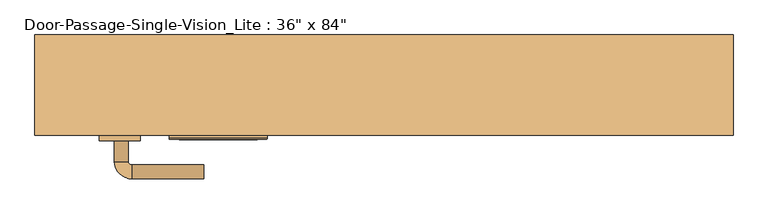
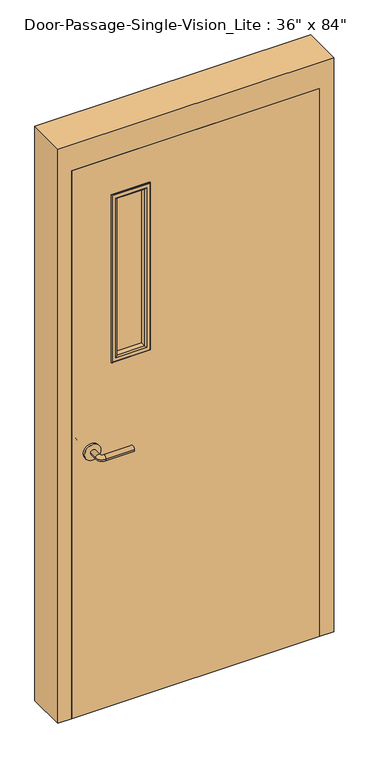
"""IFC4 building model written with IfcOpenShell, lengths in millimetres: door geometry."""

from ifc_helpers import new_model, si_unit, point, frame, frame_2d, origin, place, context, project, spatial, polyline, circle_curve, ellipse_curve, trimmed, segment, composite_curve, outline, extrude, faceted_brep, source, transform, mapped, element, save
from ifc_brep_helpers import plane_surface, cylinder_surface, revolved_surface, advanced_brep


def door_cd60406f(model_context):
    return source(origin(), model_context, "Body", "SolidModel", [
        advanced_brep(
        [(-392.190625, 33.4, 1016.0), (-372.190625, 33.4, 1016.0), (-392.190625, 63.4, 1016.0), (-372.190625, 63.4, 1016.0), (-367.190625, 68.4, 1016.0), (-367.190625, 88.4, 1016.0), (-262.190625, 88.4, 1016.0), (-262.190625, 68.4, 1016.0)],
        [
            (0, 1, circle_curve(frame((-382.190625, 33.4, 1016.0), z_axis=(0.0, -1.0, 0.0), x_axis=(1.0, 0.0, 0.0)), 10.0)),
            (1, 0, circle_curve(frame((-382.190625, 33.4, 1016.0), z_axis=(0.0, -1.0, 0.0), x_axis=(1.0, 0.0, 0.0)), 10.0)),
            (0, 2),
            (2, 3, circle_curve(frame((-382.190625, 63.4, 1016.0), z_axis=(0.0, -1.0, 0.0), x_axis=(1.0, 0.0, 0.0)), 10.0)),
            (3, 1),
            (3, 2, circle_curve(frame((-382.190625, 63.4, 1016.0), z_axis=(0.0, -1.0, 0.0), x_axis=(1.0, 0.0, 0.0)), 10.0)),
            (4, 3, circle_curve(frame((-367.190625, 63.4, 1016.0), z_axis=(0.0, 0.0, 1.0), x_axis=(-1.0, 0.0, 0.0)), 5.0)),
            (2, 5, circle_curve(frame((-367.190625, 63.4, 1016.0), z_axis=(0.0, 0.0, -1.0), x_axis=(-1.0, 0.0, 0.0)), 25.0)),
            (5, 4, circle_curve(frame((-367.190625, 78.4, 1016.0), z_axis=(-1.0, 0.0, 0.0), x_axis=(0.0, -1.0, 0.0)), 10.0)),
            (4, 5, circle_curve(frame((-367.190625, 78.4, 1016.0), z_axis=(-1.0, 0.0, 0.0), x_axis=(0.0, -1.0, 0.0)), 10.0)),
            (6, 7, circle_curve(frame((-262.190625, 78.4, 1016.0), z_axis=(1.0, 0.0, 0.0), x_axis=(0.0, -1.0, 0.0)), 10.0)),
            (7, 6, circle_curve(frame((-262.190625, 78.4, 1016.0), z_axis=(1.0, 0.0, 0.0), x_axis=(0.0, -1.0, 0.0)), 10.0)),
            (5, 6),
            (7, 4),
        ],
        [
            plane_surface(frame((-382.190625, 33.4, 1016.0), z_axis=(0.0, -1.0, 0.0), x_axis=(0.0, 0.0, 1.0))),
            cylinder_surface(frame((-382.190625, 33.4, 1016.0), z_axis=(0.0, -1.0, 0.0), x_axis=(1.0, 0.0, 0.0)), 10.0),
            revolved_surface(trimmed(ellipse_curve(frame((-382.190625, 63.4, 1016.0), z_axis=(0.0, -1.0, 0.0), x_axis=(1.0, 0.0, 0.0)), 10.0, 10.0), [point((-392.190625, 63.4, 1016.0))], [point((-372.190625, 63.4, 1016.0))], True, "CARTESIAN"), (-367.190625, 63.4, 1016.0), (0.0, 0.0, -1.0)),
            revolved_surface(trimmed(ellipse_curve(frame((-382.190625, 63.4, 1016.0), z_axis=(0.0, -1.0, 0.0), x_axis=(1.0, 0.0, 0.0)), 10.0, 10.0), [point((-372.190625, 63.4, 1016.0))], [point((-392.190625, 63.4, 1016.0))], True, "CARTESIAN"), (-367.190625, 63.4, 1016.0), (0.0, 0.0, -1.0)),
            plane_surface(frame((-262.190625, 78.4, 1016.0), z_axis=(1.0, 0.0, 0.0), x_axis=(0.0, 0.0, 1.0))),
            cylinder_surface(frame((-367.190625, 78.4, 1016.0), z_axis=(-1.0, 0.0, 0.0), x_axis=(0.0, -1.0, 0.0)), 10.0),
        ],
        [
            (0, [[1, 2]]),
            (1, [[-1, 3, 4, 5]]),
            (1, [[-2, -5, 6, -3]]),
            (2, [[7, -4, 8, 9]]),
            (3, [[-8, -6, -7, 10]]),
            (4, [[11, 12]]),
            (5, [[-9, 13, -12, 14]]),
            (5, [[-10, -14, -11, -13]]),
        ],
    ),
        extrude(outline(composite_curve([segment(trimmed(circle_curve(frame_2d((1016.0, -384.690625)), 30.0), [point((1016.0, -414.690625))], [point((1016.0, -354.690625))], False, "CARTESIAN"), True, "CONTINUOUS"), segment(trimmed(circle_curve(frame_2d((1016.0, -384.690625)), 30.0), [point((1016.0, -354.690625))], [point((1016.0, -414.690625))], False, "CARTESIAN"), True, "CONTINUOUS")], self_intersect=False)), frame((0.0, 25.4, 0.0), z_axis=(0.0, 1.0, 0.0), x_axis=(0.0, 0.0, 1.0)), (0.0, 0.0, 1.0), 8.0),
        advanced_brep(
        [(-392.190625, -27.05, 1016.0), (-372.190625, -27.05, 1016.0), (-372.190625, -57.05, 1016.0), (-392.190625, -57.05, 1016.0), (-367.190625, -62.05, 1016.0), (-367.190625, -82.05, 1016.0), (-262.190625, -82.05, 1016.0), (-262.190625, -62.05, 1016.0)],
        [
            (0, 1, circle_curve(frame((-382.190625, -27.05, 1016.0), z_axis=(0.0, 1.0, 0.0), x_axis=(1.0, 0.0, 0.0)), 10.0)),
            (1, 0, circle_curve(frame((-382.190625, -27.05, 1016.0), z_axis=(0.0, 1.0, 0.0), x_axis=(1.0, 0.0, 0.0)), 10.0)),
            (1, 2),
            (2, 3, circle_curve(frame((-382.190625, -57.05, 1016.0), z_axis=(0.0, 1.0, 0.0), x_axis=(1.0, 0.0, 0.0)), 10.0)),
            (3, 0),
            (3, 2, circle_curve(frame((-382.190625, -57.05, 1016.0), z_axis=(0.0, 1.0, 0.0), x_axis=(1.0, 0.0, 0.0)), 10.0)),
            (4, 5, circle_curve(frame((-367.190625, -72.05, 1016.0), z_axis=(-1.0, 0.0, 0.0), x_axis=(0.0, 1.0, 0.0)), 10.0)),
            (5, 3, circle_curve(frame((-367.190625, -57.05, 1016.0), z_axis=(0.0, 0.0, -1.0), x_axis=(-1.0, 0.0, 0.0)), 25.0)),
            (2, 4, circle_curve(frame((-367.190625, -57.05, 1016.0), z_axis=(0.0, 0.0, 1.0), x_axis=(-1.0, 0.0, 0.0)), 5.0)),
            (5, 4, circle_curve(frame((-367.190625, -72.05, 1016.0), z_axis=(-1.0, 0.0, 0.0), x_axis=(0.0, 1.0, 0.0)), 10.0)),
            (6, 7, circle_curve(frame((-262.190625, -72.05, 1016.0), z_axis=(1.0, 0.0, 0.0), x_axis=(0.0, 1.0, 0.0)), 10.0)),
            (7, 6, circle_curve(frame((-262.190625, -72.05, 1016.0), z_axis=(1.0, 0.0, 0.0), x_axis=(0.0, 1.0, 0.0)), 10.0)),
            (4, 7),
            (6, 5),
        ],
        [
            plane_surface(frame((-382.190625, -27.05, 1016.0), z_axis=(0.0, 1.0, 0.0), x_axis=(0.0, 0.0, 1.0))),
            cylinder_surface(frame((-382.190625, -27.05, 1016.0), z_axis=(0.0, 1.0, 0.0), x_axis=(1.0, 0.0, 0.0)), 10.0),
            revolved_surface(trimmed(ellipse_curve(frame((-382.190625, -57.05, 1016.0), z_axis=(0.0, -1.0, 0.0), x_axis=(1.0, 0.0, 0.0)), 10.0, 10.0), [point((-392.190625, -57.05, 1016.0))], [point((-372.190625, -57.05, 1016.0))], True, "CARTESIAN"), (-367.190625, -57.05, 1016.0), (0.0, 0.0, -1.0)),
            revolved_surface(trimmed(ellipse_curve(frame((-382.190625, -57.05, 1016.0), z_axis=(0.0, -1.0, 0.0), x_axis=(1.0, 0.0, 0.0)), 10.0, 10.0), [point((-372.190625, -57.05, 1016.0))], [point((-392.190625, -57.05, 1016.0))], True, "CARTESIAN"), (-367.190625, -57.05, 1016.0), (0.0, 0.0, -1.0)),
            plane_surface(frame((-262.190625, -72.05, 1016.0), z_axis=(1.0, 0.0, 0.0), x_axis=(0.0, 0.0, 1.0))),
            cylinder_surface(frame((-367.190625, -72.05, 1016.0), z_axis=(-1.0, 0.0, 0.0), x_axis=(0.0, 1.0, 0.0)), 10.0),
        ],
        [
            (0, [[1, 2]]),
            (1, [[3, 4, 5, -2]]),
            (1, [[-5, 6, -3, -1]]),
            (2, [[7, 8, -4, 9]]),
            (3, [[10, -9, -6, -8]]),
            (4, [[11, 12]]),
            (5, [[13, -11, 14, -7]]),
            (5, [[-14, -12, -13, -10]]),
        ],
    ),
        extrude(outline(composite_curve([segment(trimmed(circle_curve(frame_2d((1016.0, -384.690625)), 30.0), [point((1016.0, -414.690625))], [point((1016.0, -354.690625))], False, "CARTESIAN"), True, "CONTINUOUS"), segment(trimmed(circle_curve(frame_2d((1016.0, -384.690625)), 30.0), [point((1016.0, -354.690625))], [point((1016.0, -414.690625))], False, "CARTESIAN"), True, "CONTINUOUS")], self_intersect=False)), frame((0.0, -27.05, 0.0), z_axis=(0.0, 1.0, 0.0), x_axis=(0.0, 0.0, 1.0)), (0.0, 0.0, 1.0), 8.0),
        faceted_brep([(457.2, 30.1625, 0.0), (441.325, 30.1625, 0.0), (441.325, 77.7875, 0.0), (457.2, 77.7875, 0.0), (457.2, 127.0, 0.0), (508.0, 127.0, 0.0), (508.0, -19.05, 0.0), (457.2, -19.05, 0.0), (457.2, -19.05, 2133.6), (457.2, 30.1625, 2133.6), (508.0, -19.05, 2235.2), (-508.0, -19.05, 2235.2), (-508.0, -19.05, 0.0), (-457.2, -19.05, 0.0), (-457.2, -19.05, 2133.6), (508.0, 127.0, 2235.2), (457.2, 127.0, 2133.6), (-457.2, 127.0, 2133.6), (-457.2, 127.0, 0.0), (-508.0, 127.0, 0.0), (-508.0, 127.0, 2235.2), (457.2, 77.7875, 2133.6), (441.325, 77.7875, 2117.725), (-441.325, 77.7875, 2117.725), (-441.325, 77.7875, 0.0), (-457.2, 77.7875, 0.0), (-457.2, 77.7875, 2133.6), (441.325, 30.1625, 2117.725), (-457.2, 30.1625, 2133.6), (-457.2, 30.1625, 0.0), (-441.325, 30.1625, 0.0), (-441.325, 30.1625, 2117.725)], [[[0, 1, 2, 3, 4, 5, 6, 7]], [[7, 8, 9, 0]], [[6, 10, 11, 12, 13, 14, 8, 7]], [[5, 15, 10, 6]], [[4, 16, 17, 18, 19, 20, 15, 5]], [[3, 21, 16, 4]], [[2, 22, 23, 24, 25, 26, 21, 3]], [[1, 27, 22, 2]], [[0, 9, 28, 29, 30, 31, 27, 1]], [[8, 14, 28, 9]], [[16, 21, 26, 17]], [[22, 27, 31, 23]], [[12, 19, 18, 25, 24, 30, 29, 13]], [[13, 29, 28, 14]], [[11, 20, 19, 12]], [[17, 26, 25, 18]], [[23, 31, 30, 24]], [[15, 20, 11, 10]]]),
        extrude(outline(polyline([(2133.6, -457.2), (0.0, -457.2), (0.0, 457.2), (2133.6, 457.2), (2133.6, -457.2)]), holes=[polyline([(1981.2, -304.8), (1981.2, -177.8), (1346.2, -177.8), (1346.2, -304.8), (1981.2, -304.8)])]), frame((0.0, -19.05, 0.0), z_axis=(0.0, 1.0, 0.0), x_axis=(0.0, 0.0, 1.0)), (0.0, 0.0, 1.0), 44.45),
        extrude(outline(polyline([(-177.8, 6.35), (-177.8, 0.0), (-304.8, 0.0), (-304.8, 6.35), (-177.8, 6.35)])), frame((0.0, 0.0, 1346.2), z_axis=(0.0, 0.0, 1.0), x_axis=(1.0, 0.0, 0.0)), (0.0, 0.0, 1.0), 635.0),
        advanced_brep(
        [(-304.8, 6.35, 1346.2), (-304.8, 6.35, 1981.2), (-304.8, 25.4, 1981.2), (-304.8, 25.4, 1346.2), (-292.8, 26.4, 1358.2), (-292.8, 26.4, 1969.2), (-292.8, 6.35, 1969.2), (-292.8, 6.35, 1358.2), (-297.8, 31.4, 1353.2), (-297.8, 31.4, 1974.2), (-312.8, 29.4, 1338.2), (-312.8, 29.4, 1989.2), (-310.8, 31.4, 1987.2), (-310.8, 31.4, 1340.2), (-312.8, 25.4, 1338.2), (-312.8, 25.4, 1989.2), (-177.8, 6.35, 1981.2), (-177.8, 25.4, 1981.2), (-189.8, 26.4, 1969.2), (-189.8, 6.35, 1969.2), (-184.8, 31.4, 1974.2), (-169.8, 29.4, 1989.2), (-171.8, 31.4, 1987.2), (-169.8, 25.4, 1989.2), (-177.8, 6.35, 1346.2), (-177.8, 25.4, 1346.2), (-189.8, 26.4, 1358.2), (-189.8, 6.35, 1358.2), (-184.8, 31.4, 1353.2), (-169.8, 29.4, 1338.2), (-171.8, 31.4, 1340.2), (-169.8, 25.4, 1338.2)],
        [
            (0, 1),
            (1, 2),
            (2, 3),
            (3, 0),
            (4, 5),
            (5, 6),
            (6, 7),
            (7, 4),
            (8, 9),
            (9, 5, ellipse_curve(frame((-297.8, 26.4, 1974.2), z_axis=(-0.7071067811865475, 0.0, -0.7071067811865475), x_axis=(0.7071067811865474, 0.0, -0.7071067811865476)), 7.0710678, 5.0)),
            (4, 8, ellipse_curve(frame((-297.8, 26.4, 1353.2), z_axis=(-0.7071067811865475, 0.0, 0.7071067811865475), x_axis=(-0.7071067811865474, 0.0, -0.7071067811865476)), 7.0710678, 5.0)),
            (10, 11),
            (11, 12, ellipse_curve(frame((-310.8, 29.4, 1987.2), z_axis=(-0.7071067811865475, 0.0, -0.7071067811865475), x_axis=(0.7071067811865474, 0.0, -0.7071067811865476)), 2.8284271, 2.0)),
            (12, 13),
            (13, 10, ellipse_curve(frame((-310.8, 29.4, 1340.2), z_axis=(-0.7071067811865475, 0.0, 0.7071067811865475), x_axis=(-0.7071067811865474, 0.0, -0.7071067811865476)), 2.8284271, 2.0)),
            (14, 15),
            (15, 11),
            (10, 14),
            (1, 16),
            (16, 17),
            (17, 2),
            (5, 18),
            (18, 19),
            (19, 6),
            (9, 20),
            (20, 18, ellipse_curve(frame((-184.8, 26.4, 1974.2), z_axis=(-0.7071067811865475, 0.0, 0.7071067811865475), x_axis=(-0.7071067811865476, 0.0, -0.7071067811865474)), 7.0710678, 5.0)),
            (11, 21),
            (21, 22, ellipse_curve(frame((-171.8, 29.4, 1987.2), z_axis=(-0.7071067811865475, 0.0, 0.7071067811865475), x_axis=(-0.7071067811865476, 0.0, -0.7071067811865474)), 2.8284271, 2.0)),
            (22, 12),
            (15, 23),
            (23, 21),
            (16, 24),
            (24, 25),
            (25, 17),
            (18, 26),
            (26, 27),
            (27, 19),
            (20, 28),
            (28, 26, ellipse_curve(frame((-184.8, 26.4, 1353.2), z_axis=(0.7071067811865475, 0.0, 0.7071067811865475), x_axis=(-0.7071067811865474, 0.0, 0.7071067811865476)), 7.0710678, 5.0)),
            (21, 29),
            (29, 30, ellipse_curve(frame((-171.8, 29.4, 1340.2), z_axis=(0.7071067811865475, 0.0, 0.7071067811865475), x_axis=(-0.7071067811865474, 0.0, 0.7071067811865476)), 2.8284271, 2.0)),
            (30, 22),
            (23, 31),
            (31, 29),
            (14, 31),
            (25, 3),
            (24, 0),
            (27, 7),
            (26, 4),
            (28, 8),
            (30, 13),
            (29, 10),
        ],
        [
            plane_surface(frame((-304.8, 25.4, 1346.2), z_axis=(-1.0, 0.0, 0.0), x_axis=(0.0, 0.0, 1.0))),
            plane_surface(frame((-292.8, 6.35, 1358.2), z_axis=(1.0, 0.0, 0.0), x_axis=(0.0, 0.0, 1.0))),
            cylinder_surface(frame((-297.8, 26.4, 1346.2), z_axis=(0.0, 0.0, -1.0), x_axis=(-1.0, 0.0, 0.0)), 5.0),
            cylinder_surface(frame((-310.8, 29.4, 1346.2), z_axis=(0.0, 0.0, -1.0), x_axis=(-1.0, 0.0, 0.0)), 2.0),
            plane_surface(frame((-312.8, 29.4, 1338.2), z_axis=(-1.0, 0.0, 0.0), x_axis=(0.0, 0.0, 1.0))),
            plane_surface(frame((-304.8, 25.4, 1981.2), z_axis=(0.0, 0.0, 1.0), x_axis=(1.0, 0.0, 0.0))),
            plane_surface(frame((-292.8, 6.35, 1969.2), z_axis=(0.0, 0.0, -1.0), x_axis=(1.0, 0.0, 0.0))),
            cylinder_surface(frame((-304.8, 26.4, 1974.2), z_axis=(-1.0, 0.0, 0.0), x_axis=(0.0, 0.0, 1.0)), 5.0),
            cylinder_surface(frame((-304.8, 29.4, 1987.2), z_axis=(-1.0, 0.0, 0.0), x_axis=(0.0, 0.0, 1.0)), 2.0),
            plane_surface(frame((-312.8, 29.4, 1989.2), z_axis=(0.0, 0.0, 1.0), x_axis=(1.0, 0.0, 0.0))),
            plane_surface(frame((-177.8, 25.4, 1981.2), z_axis=(1.0, 0.0, 0.0), x_axis=(0.0, 0.0, -1.0))),
            plane_surface(frame((-189.8, 6.35, 1969.2), z_axis=(-1.0, 0.0, 0.0), x_axis=(0.0, 0.0, -1.0))),
            cylinder_surface(frame((-184.8, 26.4, 1981.2), z_axis=(0.0, 0.0, 1.0), x_axis=(1.0, 0.0, 0.0)), 5.0),
            cylinder_surface(frame((-171.8, 29.4, 1981.2), z_axis=(0.0, 0.0, 1.0), x_axis=(1.0, 0.0, 0.0)), 2.0),
            plane_surface(frame((-169.8, 29.4, 1989.2), z_axis=(1.0, 0.0, 0.0), x_axis=(0.0, 0.0, -1.0))),
            plane_surface(frame((-169.8, 25.4, 1338.2), z_axis=(0.0, -1.0, 0.0), x_axis=(-1.0, 0.0, 0.0))),
            plane_surface(frame((-177.8, 25.4, 1346.2), z_axis=(0.0, 0.0, -1.0), x_axis=(-1.0, 0.0, 0.0))),
            plane_surface(frame((-177.8, 6.35, 1346.2), z_axis=(0.0, -1.0, 0.0), x_axis=(-1.0, 0.0, 0.0))),
            plane_surface(frame((-189.8, 6.35, 1358.2), z_axis=(0.0, 0.0, 1.0), x_axis=(-1.0, 0.0, 0.0))),
            cylinder_surface(frame((-177.8, 26.4, 1353.2), z_axis=(1.0, 0.0, 0.0), x_axis=(0.0, 0.0, -1.0)), 5.0),
            plane_surface(frame((-184.8, 31.4, 1353.2), z_axis=(0.0, 1.0, 0.0), x_axis=(-1.0, 0.0, 0.0))),
            cylinder_surface(frame((-177.8, 29.4, 1340.2), z_axis=(1.0, 0.0, 0.0), x_axis=(0.0, 0.0, -1.0)), 2.0),
            plane_surface(frame((-169.8, 29.4, 1338.2), z_axis=(0.0, 0.0, -1.0), x_axis=(-1.0, 0.0, 0.0))),
        ],
        [
            (0, [[1, 2, 3, 4]]),
            (1, [[5, 6, 7, 8]]),
            (2, [[9, 10, -5, 11]]),
            (3, [[12, 13, 14, 15]]),
            (4, [[16, 17, -12, 18]]),
            (5, [[19, 20, 21, -2]]),
            (6, [[22, 23, 24, -6]]),
            (7, [[25, 26, -22, -10]]),
            (8, [[27, 28, 29, -13]]),
            (9, [[30, 31, -27, -17]]),
            (10, [[32, 33, 34, -20]]),
            (11, [[35, 36, 37, -23]]),
            (12, [[38, 39, -35, -26]]),
            (13, [[40, 41, 42, -28]]),
            (14, [[43, 44, -40, -31]]),
            (15, [[-16, 45, -43, -30], [-3, -21, -34, 46]]),
            (16, [[47, -4, -46, -33]]),
            (17, [[-1, -47, -32, -19], [-7, -24, -37, 48]]),
            (18, [[49, -8, -48, -36]]),
            (19, [[50, -11, -49, -39]]),
            (20, [[-14, -29, -42, 51], [-9, -50, -38, -25]]),
            (21, [[52, -15, -51, -41]]),
            (22, [[-45, -18, -52, -44]]),
        ],
    ),
        advanced_brep(
        [(-304.8, 0.0, 1981.2), (-304.8, 0.0, 1346.2), (-304.8, -19.05, 1346.2), (-304.8, -19.05, 1981.2), (-292.8, -20.05, 1969.2), (-292.8, -20.05, 1358.2), (-292.8, 0.0, 1358.2), (-292.8, 0.0, 1969.2), (-297.8, -25.05, 1974.2), (-297.8, -25.05, 1353.2), (-312.8, -23.05, 1989.2), (-312.8, -23.05, 1338.2), (-310.8, -25.05, 1340.2), (-310.8, -25.05, 1987.2), (-312.8, -19.05, 1989.2), (-312.8, -19.05, 1338.2), (-177.8, 0.0, 1346.2), (-177.8, -19.05, 1346.2), (-189.8, -20.05, 1358.2), (-189.8, 0.0, 1358.2), (-184.8, -25.05, 1353.2), (-169.8, -23.05, 1338.2), (-171.8, -25.05, 1340.2), (-169.8, -19.05, 1338.2), (-177.8, 0.0, 1981.2), (-177.8, -19.05, 1981.2), (-189.8, -20.05, 1969.2), (-189.8, 0.0, 1969.2), (-184.8, -25.05, 1974.2), (-169.8, -23.05, 1989.2), (-171.8, -25.05, 1987.2), (-169.8, -19.05, 1989.2)],
        [
            (0, 1),
            (1, 2),
            (2, 3),
            (3, 0),
            (4, 5),
            (5, 6),
            (6, 7),
            (7, 4),
            (8, 9),
            (9, 5, ellipse_curve(frame((-297.8, -20.05, 1353.2), z_axis=(-0.7071067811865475, 0.0, 0.7071067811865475), x_axis=(0.7071067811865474, 0.0, 0.7071067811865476)), 7.0710678, 5.0)),
            (4, 8, ellipse_curve(frame((-297.8, -20.05, 1974.2), z_axis=(-0.7071067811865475, 0.0, -0.7071067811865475), x_axis=(-0.7071067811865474, 0.0, 0.7071067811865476)), 7.0710678, 5.0)),
            (10, 11),
            (11, 12, ellipse_curve(frame((-310.8, -23.05, 1340.2), z_axis=(-0.7071067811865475, 0.0, 0.7071067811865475), x_axis=(0.7071067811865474, 0.0, 0.7071067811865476)), 2.8284271, 2.0)),
            (12, 13),
            (13, 10, ellipse_curve(frame((-310.8, -23.05, 1987.2), z_axis=(-0.7071067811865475, 0.0, -0.7071067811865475), x_axis=(-0.7071067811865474, 0.0, 0.7071067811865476)), 2.8284271, 2.0)),
            (14, 15),
            (15, 11),
            (10, 14),
            (1, 16),
            (16, 17),
            (17, 2),
            (5, 18),
            (18, 19),
            (19, 6),
            (9, 20),
            (20, 18, ellipse_curve(frame((-184.8, -20.05, 1353.2), z_axis=(-0.7071067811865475, 0.0, -0.7071067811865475), x_axis=(-0.7071067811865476, 0.0, 0.7071067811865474)), 7.0710678, 5.0)),
            (11, 21),
            (21, 22, ellipse_curve(frame((-171.8, -23.05, 1340.2), z_axis=(-0.7071067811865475, 0.0, -0.7071067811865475), x_axis=(-0.7071067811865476, 0.0, 0.7071067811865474)), 2.8284271, 2.0)),
            (22, 12),
            (15, 23),
            (23, 21),
            (16, 24),
            (24, 25),
            (25, 17),
            (18, 26),
            (26, 27),
            (27, 19),
            (20, 28),
            (28, 26, ellipse_curve(frame((-184.8, -20.05, 1974.2), z_axis=(0.7071067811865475, 0.0, -0.7071067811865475), x_axis=(-0.7071067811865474, 0.0, -0.7071067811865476)), 7.0710678, 5.0)),
            (21, 29),
            (29, 30, ellipse_curve(frame((-171.8, -23.05, 1987.2), z_axis=(0.7071067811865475, 0.0, -0.7071067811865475), x_axis=(-0.7071067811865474, 0.0, -0.7071067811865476)), 2.8284271, 2.0)),
            (30, 22),
            (23, 31),
            (31, 29),
            (14, 31),
            (25, 3),
            (24, 0),
            (27, 7),
            (26, 4),
            (28, 8),
            (30, 13),
            (29, 10),
        ],
        [
            plane_surface(frame((-304.8, -19.05, 1981.2), z_axis=(-1.0, 0.0, 0.0), x_axis=(0.0, 0.0, -1.0))),
            plane_surface(frame((-292.8, 0.0, 1969.2), z_axis=(1.0, 0.0, 0.0), x_axis=(0.0, 0.0, -1.0))),
            cylinder_surface(frame((-297.8, -20.05, 1981.2), z_axis=(0.0, 0.0, 1.0), x_axis=(-1.0, 0.0, 0.0)), 5.0),
            cylinder_surface(frame((-310.8, -23.05, 1981.2), z_axis=(0.0, 0.0, 1.0), x_axis=(-1.0, 0.0, 0.0)), 2.0),
            plane_surface(frame((-312.8, -23.05, 1989.2), z_axis=(-1.0, 0.0, 0.0), x_axis=(0.0, 0.0, -1.0))),
            plane_surface(frame((-304.8, -19.05, 1346.2), z_axis=(0.0, 0.0, -1.0), x_axis=(1.0, 0.0, 0.0))),
            plane_surface(frame((-292.8, 0.0, 1358.2), z_axis=(0.0, 0.0, 1.0), x_axis=(1.0, 0.0, 0.0))),
            cylinder_surface(frame((-304.8, -20.05, 1353.2), z_axis=(-1.0, 0.0, 0.0), x_axis=(0.0, 0.0, -1.0)), 5.0),
            cylinder_surface(frame((-304.8, -23.05, 1340.2), z_axis=(-1.0, 0.0, 0.0), x_axis=(0.0, 0.0, -1.0)), 2.0),
            plane_surface(frame((-312.8, -23.05, 1338.2), z_axis=(0.0, 0.0, -1.0), x_axis=(1.0, 0.0, 0.0))),
            plane_surface(frame((-177.8, -19.05, 1346.2), z_axis=(1.0, 0.0, 0.0), x_axis=(0.0, 0.0, 1.0))),
            plane_surface(frame((-189.8, 0.0, 1358.2), z_axis=(-1.0, 0.0, 0.0), x_axis=(0.0, 0.0, 1.0))),
            cylinder_surface(frame((-184.8, -20.05, 1346.2), z_axis=(0.0, 0.0, -1.0), x_axis=(1.0, 0.0, 0.0)), 5.0),
            cylinder_surface(frame((-171.8, -23.05, 1346.2), z_axis=(0.0, 0.0, -1.0), x_axis=(1.0, 0.0, 0.0)), 2.0),
            plane_surface(frame((-169.8, -23.05, 1338.2), z_axis=(1.0, 0.0, 0.0), x_axis=(0.0, 0.0, 1.0))),
            plane_surface(frame((-169.8, -19.05, 1989.2), z_axis=(0.0, 1.0, 0.0), x_axis=(-1.0, 0.0, 0.0))),
            plane_surface(frame((-177.8, -19.05, 1981.2), z_axis=(0.0, 0.0, 1.0), x_axis=(-1.0, 0.0, 0.0))),
            plane_surface(frame((-177.8, 0.0, 1981.2), z_axis=(0.0, 1.0, 0.0), x_axis=(-1.0, 0.0, 0.0))),
            plane_surface(frame((-189.8, 0.0, 1969.2), z_axis=(0.0, 0.0, -1.0), x_axis=(-1.0, 0.0, 0.0))),
            cylinder_surface(frame((-177.8, -20.05, 1974.2), z_axis=(1.0, 0.0, 0.0), x_axis=(0.0, 0.0, 1.0)), 5.0),
            plane_surface(frame((-184.8, -25.05, 1974.2), z_axis=(0.0, -1.0, 0.0), x_axis=(-1.0, 0.0, 0.0))),
            cylinder_surface(frame((-177.8, -23.05, 1987.2), z_axis=(1.0, 0.0, 0.0), x_axis=(0.0, 0.0, 1.0)), 2.0),
            plane_surface(frame((-169.8, -23.05, 1989.2), z_axis=(0.0, 0.0, 1.0), x_axis=(-1.0, 0.0, 0.0))),
        ],
        [
            (0, [[1, 2, 3, 4]]),
            (1, [[5, 6, 7, 8]]),
            (2, [[9, 10, -5, 11]]),
            (3, [[12, 13, 14, 15]]),
            (4, [[16, 17, -12, 18]]),
            (5, [[19, 20, 21, -2]]),
            (6, [[22, 23, 24, -6]]),
            (7, [[25, 26, -22, -10]]),
            (8, [[27, 28, 29, -13]]),
            (9, [[30, 31, -27, -17]]),
            (10, [[32, 33, 34, -20]]),
            (11, [[35, 36, 37, -23]]),
            (12, [[38, 39, -35, -26]]),
            (13, [[40, 41, 42, -28]]),
            (14, [[43, 44, -40, -31]]),
            (15, [[-16, 45, -43, -30], [-3, -21, -34, 46]]),
            (16, [[47, -4, -46, -33]]),
            (17, [[-1, -47, -32, -19], [-7, -24, -37, 48]]),
            (18, [[49, -8, -48, -36]]),
            (19, [[50, -11, -49, -39]]),
            (20, [[-14, -29, -42, 51], [-9, -50, -38, -25]]),
            (21, [[52, -15, -51, -41]]),
            (22, [[-45, -18, -52, -44]]),
        ],
    ),
    ])


if __name__ == "__main__":
    model = new_model("IFC4")
    model_context = context("Model", 3, world=origin())
    ifc_project = project(units=[si_unit("LENGTHUNIT", "METRE", prefix="MILLI")], contexts=[model_context])
    site = spatial("IfcSite", under=ifc_project)
    building = spatial("IfcBuilding", under=site)
    placement = place(None, origin())
    door_shape = door_cd60406f(model_context)
    element("IfcDoor", 1, ObjectType="Door-Passage-Single-Vision_Lite : 36\" x 84\"", at=placement, inside=building, context=model_context, shape_type="MappedRepresentation", body=[
        mapped(door_shape, transform((0.0, 0.0, 0.0), x_axis=(1.0, 0.0, 0.0), y_axis=(0.0, 1.0, 0.0), z_axis=(0.0, 0.0, 1.0))),
    ])
    save(model, "model.ifc")
